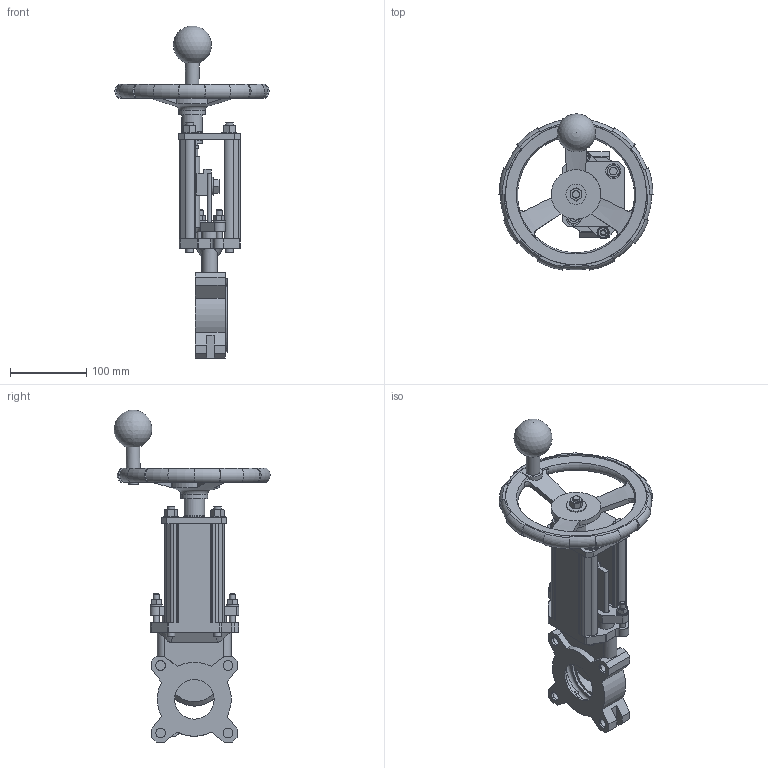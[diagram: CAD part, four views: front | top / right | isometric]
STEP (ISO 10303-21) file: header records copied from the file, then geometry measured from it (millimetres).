
FILE_DESCRIPTION(('STEP AP203'),'1');
FILE_NAME('G:/KONSTRUK/3-d block för CD/MV VALVE/HAND WHEEL/MV50-PN10-HW.stp','2010-12-22T08:53:14',(' '),(' '),'Spatial InterOp 3D',' ',' ');
FILE_SCHEMA(('CONFIG_CONTROL_DESIGN'));
Length unit declared in the file: metre
Products named in the file (1): 1
Bounding box: 201.92 x 204.89 x 434.99 mm (x, y, z)
Volume: 1024913.4 mm3; surface area: 340222 mm2
Topology: 1 solids, 5 shells, 663 faces, 1634 edges, 1049 vertices
Faces by surface type: plane 335, cylinder 166, cone 131, torus 24, bspline 6, sphere 1
Full cylindrical faces by diameter (mm): 5 x2, 6.75 x2, 8 x4, 8.8 x2, 9 x2, 10 x15, 10.25 x1, 10.791 x5, 11 x4, 12 x2, 12.7 x4, 12.793 x1, 14 x8, 15 x3, 15.984 x2, 17 x1, 18 x1, 19.4 x1, 19.5 x1, 19.715 x4, 20 x2, 24 x1, 26.35 x1, 27 x2, 27.5 x2, 35 x1, 52 x2, 59 x1, 65 x1, 69 x1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
Entity records: 21795 total; most frequent: CARTESIAN_POINT 6882, DIRECTION 3077, ORIENTED_EDGE 2936, EDGE_CURVE 1468, AXIS2_PLACEMENT_3D 1238, VERTEX_POINT 999, EDGE_LOOP 875, FACE_OUTER_BOUND 747
